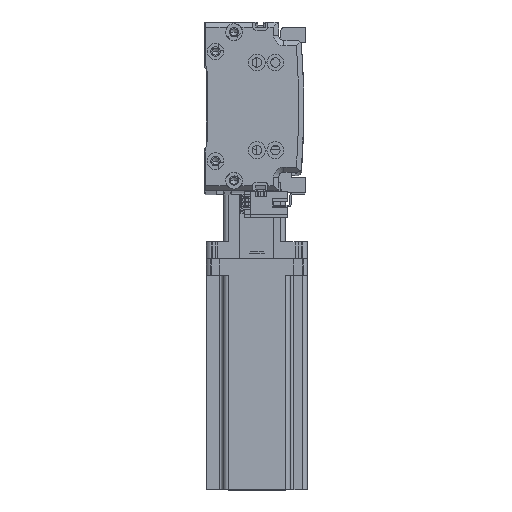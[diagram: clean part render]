
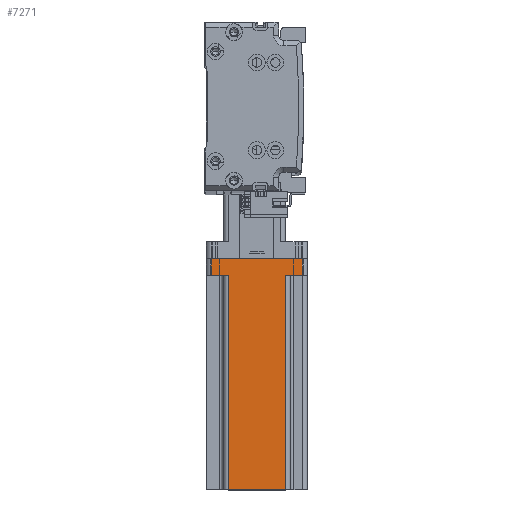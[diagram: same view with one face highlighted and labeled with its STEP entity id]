
A CAD part, top view. The second image highlights one B-rep face of the part: STEP entity #7271.
In plain terms, the highlighted planar face has unit normal (0, 0, 1) as drawn and (0, 1, 0) by its records, which use the part's own axes.
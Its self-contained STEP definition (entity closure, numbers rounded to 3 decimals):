
#428 = ORIENTED_EDGE ( 'NONE', *, *, #14997, .T. ) ;
#785 = DIRECTION ( 'NONE',  ( 0., 0., -1. ) ) ;
#807 = CARTESIAN_POINT ( 'NONE',  ( -20., 30., 10. ) ) ;
#1094 = VERTEX_POINT ( 'NONE', #16514 ) ;
#1518 = CARTESIAN_POINT ( 'NONE',  ( 17., 30., 10. ) ) ;
#1700 = DIRECTION ( 'NONE',  ( -1., 0., 0. ) ) ;
#2218 = CARTESIAN_POINT ( 'NONE',  ( 30., 30., 137. ) ) ;
#2566 = CARTESIAN_POINT ( 'NONE',  ( -27., 30., 0. ) ) ;
#3575 = DIRECTION ( 'NONE',  ( 1., 0., 0. ) ) ;
#3849 = EDGE_CURVE ( 'NONE', #44658, #35962, #45106, .T. ) ;
#5663 = VECTOR ( 'NONE', #26030, 1000. ) ;
#6347 = EDGE_CURVE ( 'NONE', #18351, #22337, #49486, .T. ) ;
#7271 = ADVANCED_FACE ( 'NONE', ( #31211 ), #14269, .F. ) ;
#7875 = CARTESIAN_POINT ( 'NONE',  ( 17., 30., 137. ) ) ;
#8286 = ORIENTED_EDGE ( 'NONE', *, *, #23786, .F. ) ;
#8606 = DIRECTION ( 'NONE',  ( -1., 0., 0. ) ) ;
#8967 = EDGE_CURVE ( 'NONE', #22337, #35962, #26802, .T. ) ;
#9367 = DIRECTION ( 'NONE',  ( 0., 0., 1. ) ) ;
#10511 = VERTEX_POINT ( 'NONE', #2566 ) ;
#11144 = CARTESIAN_POINT ( 'NONE',  ( -17., 30., 137. ) ) ;
#11445 = EDGE_LOOP ( 'NONE', ( #30797, #33476, #37566, #20063, #8286, #38108, #29687, #428 ) ) ;
#11941 = VECTOR ( 'NONE', #28658, 1000. ) ;
#14269 = PLANE ( 'NONE',  #27600 ) ;
#14997 = EDGE_CURVE ( 'NONE', #10511, #18351, #23289, .T. ) ;
#15423 = VECTOR ( 'NONE', #9367, 1000. ) ;
#16513 = VECTOR ( 'NONE', #8606, 1000. ) ;
#16514 = CARTESIAN_POINT ( 'NONE',  ( 27., 30., 10. ) ) ;
#17733 = CARTESIAN_POINT ( 'NONE',  ( 27., 30., 0. ) ) ;
#17869 = LINE ( 'NONE', #38358, #16513 ) ;
#18351 = VERTEX_POINT ( 'NONE', #54374 ) ;
#18953 = CARTESIAN_POINT ( 'NONE',  ( 30., 30., 137. ) ) ;
#20063 = ORIENTED_EDGE ( 'NONE', *, *, #51614, .T. ) ;
#21758 = LINE ( 'NONE', #44699, #44421 ) ;
#22337 = VERTEX_POINT ( 'NONE', #53322 ) ;
#23260 = DIRECTION ( 'NONE',  ( 1., 0., 0. ) ) ;
#23289 = LINE ( 'NONE', #49966, #11941 ) ;
#23786 = EDGE_CURVE ( 'NONE', #1094, #39582, #17869, .T. ) ;
#26030 = DIRECTION ( 'NONE',  ( -1., 0., 0. ) ) ;
#26241 = CARTESIAN_POINT ( 'NONE',  ( 27., 30., 137. ) ) ;
#26262 = CARTESIAN_POINT ( 'NONE',  ( -17., 30., 137. ) ) ;
#26802 = LINE ( 'NONE', #26262, #15423 ) ;
#27600 = AXIS2_PLACEMENT_3D ( 'NONE', #18953, #48814, #23260 ) ;
#28658 = DIRECTION ( 'NONE',  ( 0., 0., 1. ) ) ;
#29519 = EDGE_CURVE ( 'NONE', #41818, #10511, #51035, .T. ) ;
#29687 = ORIENTED_EDGE ( 'NONE', *, *, #29519, .T. ) ;
#30797 = ORIENTED_EDGE ( 'NONE', *, *, #6347, .T. ) ;
#31211 = FACE_OUTER_BOUND ( 'NONE', #11445, .T. ) ;
#33476 = ORIENTED_EDGE ( 'NONE', *, *, #8967, .T. ) ;
#33756 = VECTOR ( 'NONE', #1700, 1000. ) ;
#35962 = VERTEX_POINT ( 'NONE', #11144 ) ;
#37566 = ORIENTED_EDGE ( 'NONE', *, *, #3849, .F. ) ;
#38082 = VECTOR ( 'NONE', #3575, 1000. ) ;
#38108 = ORIENTED_EDGE ( 'NONE', *, *, #51448, .T. ) ;
#38358 = CARTESIAN_POINT ( 'NONE',  ( 20., 30., 10. ) ) ;
#39582 = VERTEX_POINT ( 'NONE', #1518 ) ;
#41818 = VERTEX_POINT ( 'NONE', #17733 ) ;
#43767 = VECTOR ( 'NONE', #785, 1000. ) ;
#44421 = VECTOR ( 'NONE', #53138, 1000. ) ;
#44658 = VERTEX_POINT ( 'NONE', #7875 ) ;
#44699 = CARTESIAN_POINT ( 'NONE',  ( 17., 30., 137. ) ) ;
#45106 = LINE ( 'NONE', #2218, #33756 ) ;
#48814 = DIRECTION ( 'NONE',  ( 0., -1., 0. ) ) ;
#49486 = LINE ( 'NONE', #807, #38082 ) ;
#49966 = CARTESIAN_POINT ( 'NONE',  ( -27., 30., 137. ) ) ;
#51035 = LINE ( 'NONE', #51645, #5663 ) ;
#51448 = EDGE_CURVE ( 'NONE', #1094, #41818, #55167, .T. ) ;
#51614 = EDGE_CURVE ( 'NONE', #44658, #39582, #21758, .T. ) ;
#51645 = CARTESIAN_POINT ( 'NONE',  ( 30., 30., 0. ) ) ;
#53138 = DIRECTION ( 'NONE',  ( 0., 0., -1. ) ) ;
#53322 = CARTESIAN_POINT ( 'NONE',  ( -17., 30., 10. ) ) ;
#54374 = CARTESIAN_POINT ( 'NONE',  ( -27., 30., 10. ) ) ;
#55167 = LINE ( 'NONE', #26241, #43767 ) ;
